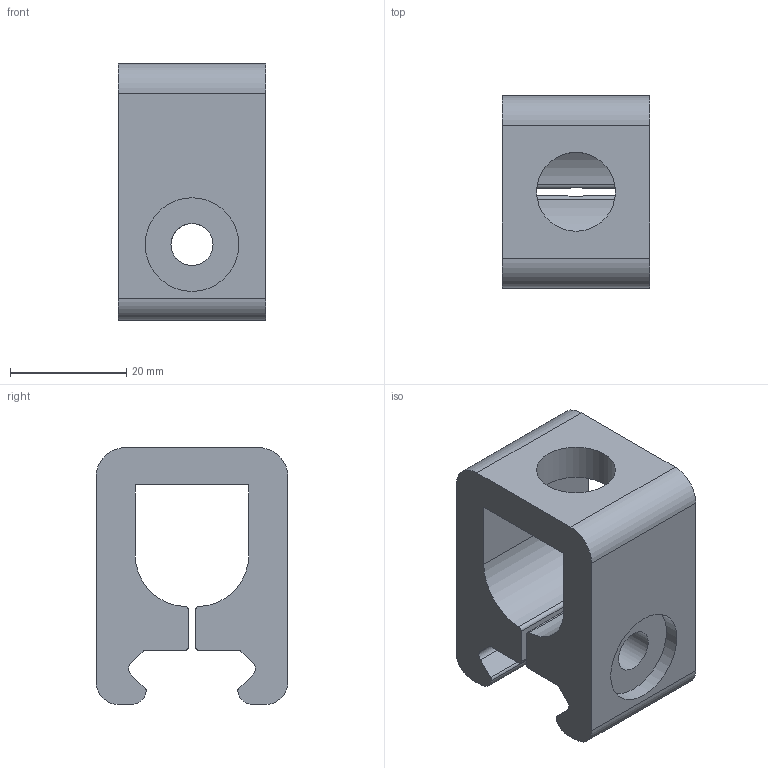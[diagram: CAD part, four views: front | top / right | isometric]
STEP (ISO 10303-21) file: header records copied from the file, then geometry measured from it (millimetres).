
FILE_DESCRIPTION(/* description */ (''),/* implementation_level */ '2;1');
FILE_NAME(/* name */ 'C:/Users/Samuel J. Greear/Downloads/Receiver Heaver/Receiver Heaver - Minor.step',/* time_stamp */ '2019-11-28T18:29:30-07:00',/* author */ (''),/* organization */ (''),/* preprocessor_version */ 'ST-DEVELOPER v18',/* originating_system */ 'Autodesk Translation Framework v8.12.0.6',/* authorisation */ '');
FILE_SCHEMA (('AUTOMOTIVE_DESIGN { 1 0 10303 214 3 1 1 }'));
Length unit declared in the file: inch
Products named in the file (2): Receiver Heaver; 1913 Adapter
Assembly tree (1 placements, depth 2):
  Receiver Heaver
    1913 Adapter
Bounding box: 25.4 x 33.04 x 44.25 mm (x, y, z)
Volume: 19530.4 mm3; surface area: 8877.1 mm2
Topology: 1 solids, 1 shells, 52 faces, 152 edges, 102 vertices
Faces by surface type: plane 28, cylinder 24
Full cylindrical faces by diameter (mm): 7.239 x2, 13.589 x1, 16.129 x1
Entity records: 1848 total; most frequent: CARTESIAN_POINT 345, DIRECTION 312, ORIENTED_EDGE 304, EDGE_CURVE 152, AXIS2_PLACEMENT_3D 109, VERTEX_POINT 102, LINE 94, VECTOR 94
